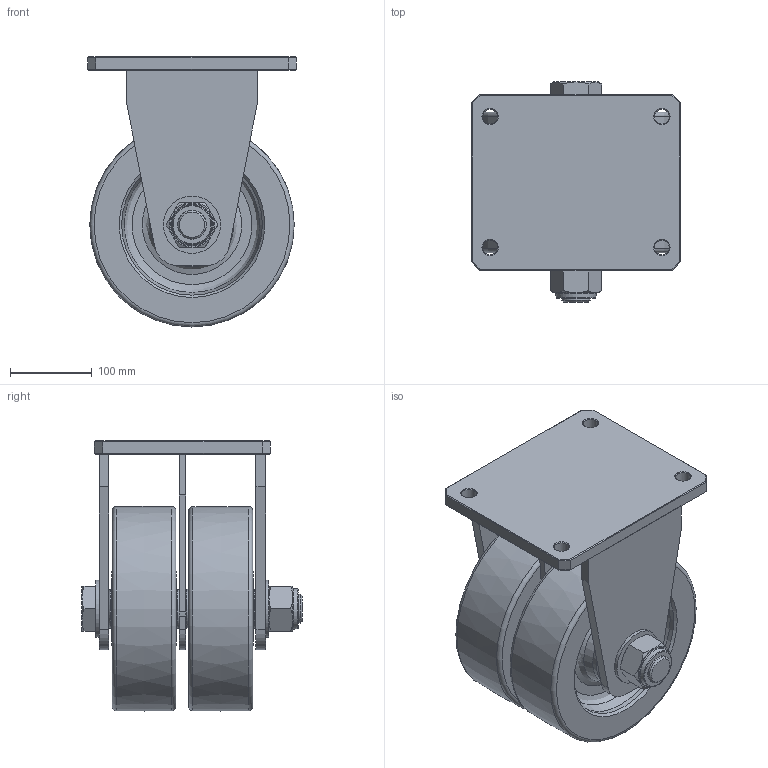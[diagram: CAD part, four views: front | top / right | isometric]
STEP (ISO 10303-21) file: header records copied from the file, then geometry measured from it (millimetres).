
FILE_DESCRIPTION((''),'2;1');
FILE_NAME('C:\Documents and Settings\Administrator\바탕 화면\3D STEP\GXTD-SERIES\GXTD-250\GXTD-250-RF.stp','2010-12-27T14:39:16',('Administrator'),(''),'Autodesk Inventor 2009','Autodesk Inventor 2009','');
FILE_SCHEMA(('AUTOMOTIVE_DESIGN { 1 0 10303 214 1 1 1 1 }'));
Length unit declared in the file: millimetre
Products named in the file (1): GXTD-250-RF
Bounding box: 255 x 269 x 330 mm (x, y, z)
Volume: 7715999.3 mm3; surface area: 770487.6 mm2
Topology: 8 solids, 8 shells, 260 faces, 589 edges, 376 vertices
Faces by surface type: plane 103, cylinder 59, cone 48, torus 31, bspline 19
Full cylindrical faces by diameter (mm): 18 x4, 35 x6, 35.3 x2, 35.5 x1, 38 x2, 47.334 x8, 59.666 x8, 64 x2, 70 x2, 72 x8, 96 x4, 172 x4
Entity records: 7056 total; most frequent: CARTESIAN_POINT 2117, DIRECTION 1048, ORIENTED_EDGE 778, AXIS2_PLACEMENT_3D 453, EDGE_LOOP 448, EDGE_CURVE 389, VERTEX_POINT 307, FACE_OUTER_BOUND 260
